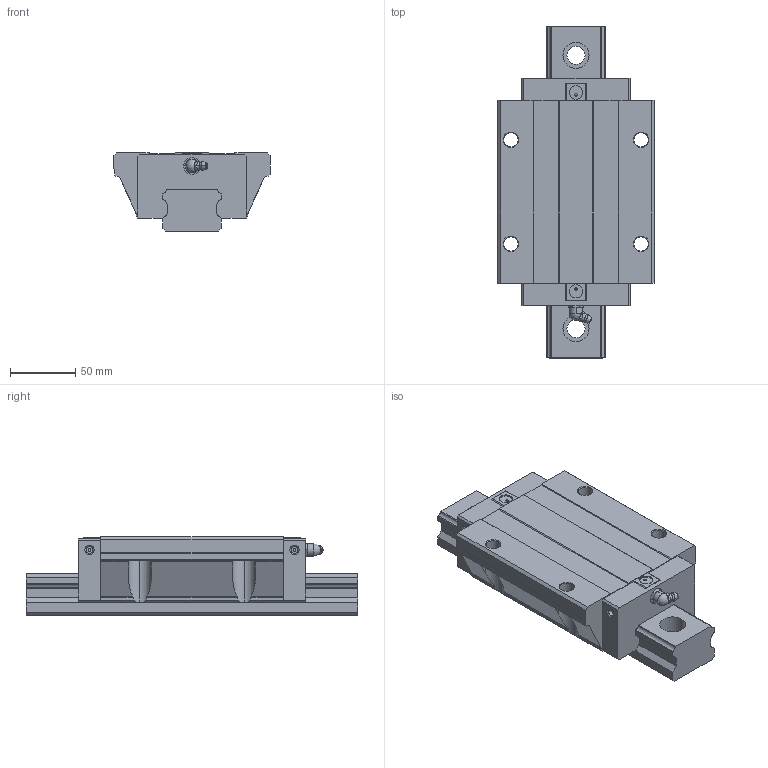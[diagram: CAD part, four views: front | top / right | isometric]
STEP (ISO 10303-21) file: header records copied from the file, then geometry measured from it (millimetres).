
FILE_DESCRIPTION((''),'1');
FILE_NAME(' ',' ',(''),(''),'ACIS Interop R16','Kubotek KeyCreator V6.5.2 (0407)',' ');
FILE_SCHEMA(('CONFIG_CONTROL_DESIGN'));
Length unit declared in the file: millimetre
Products named in the file (3): 1; 2; 3
Bounding box: 120 x 255 x 60 mm (x, y, z)
Volume: 1018371.8 mm3; surface area: 121685.7 mm2
Topology: 3 solids, 3 shells, 265 faces, 710 edges, 469 vertices
Faces by surface type: plane 138, cylinder 94, cone 18, torus 10, sphere 3, bspline 2
Entity records: 8664 total; most frequent: CARTESIAN_POINT 1687, DIRECTION 1472, ORIENTED_EDGE 1416, EDGE_CURVE 708, AXIS2_PLACEMENT_3D 530, VERTEX_POINT 469, LINE 412, VECTOR 412
